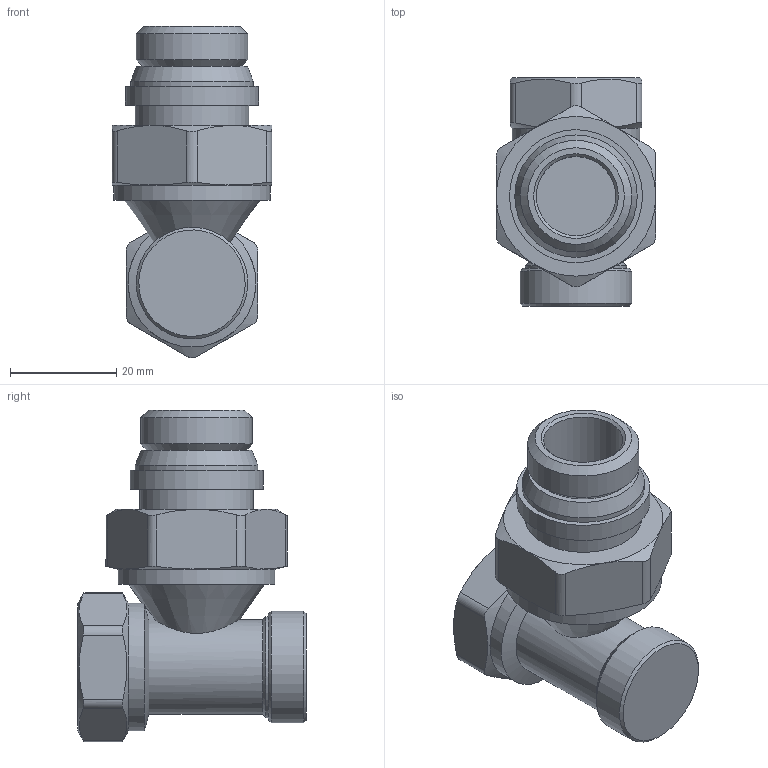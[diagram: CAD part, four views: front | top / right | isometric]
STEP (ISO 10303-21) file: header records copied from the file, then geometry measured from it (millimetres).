
FILE_DESCRIPTION(('STEP AP203'), '1');
FILE_NAME('VT.045.GR.04.2', '2026-02-18T07:37:01', ('VerevichevVA'), ('Vesta'), 'C3D Converter', 'C3D Toolkit', '');
FILE_SCHEMA(('CONFIG_CONTROL_DESIGN'));
Length unit declared in the file: millimetre
Bounding box: 30 x 42.9 x 62.25 mm (x, y, z)
Volume: 27271.5 mm3; surface area: 10261.6 mm2
Topology: 1 solids, 3 shells, 81 faces, 182 edges, 116 vertices
Faces by surface type: cylinder 29, plane 28, cone 24
Full cylindrical faces by diameter (mm): 10 x1, 14.9 x1, 17.8 x1, 18.632 x1, 19 x1, 20.955 x1, 21 x1, 21.3 x1, 21.9 x1, 23 x1, 24 x1, 25 x1, 29.4 x1
Entity records: 4326 total; most frequent: CARTESIAN_POINT 2693, ORIENTED_EDGE 308, DIRECTION 300, EDGE_CURVE 154, AXIS2_PLACEMENT_3D 136, EDGE_LOOP 118, VERTEX_POINT 116, ADVANCED_FACE 81
